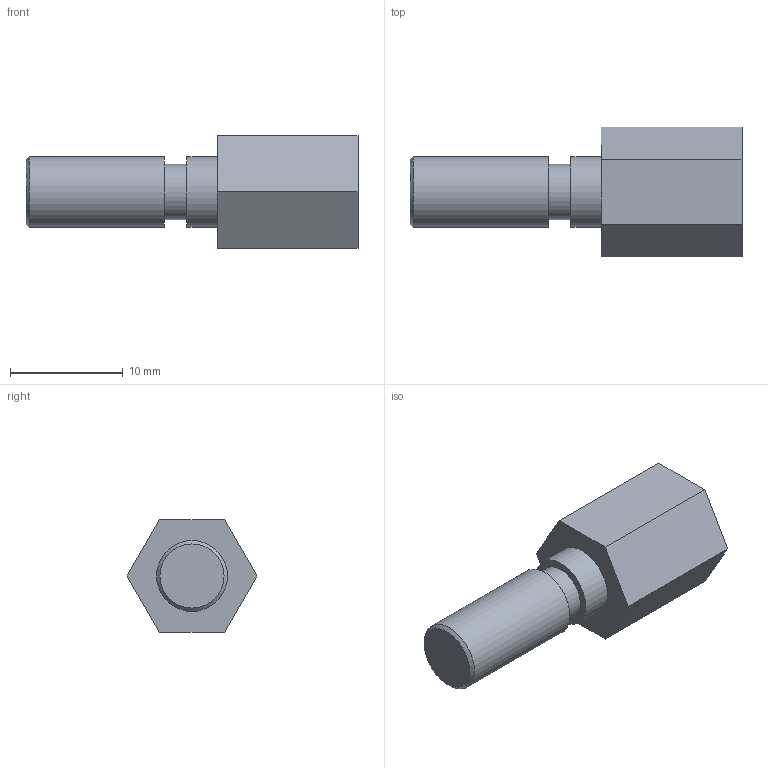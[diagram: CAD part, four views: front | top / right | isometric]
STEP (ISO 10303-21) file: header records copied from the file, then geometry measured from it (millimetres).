
FILE_DESCRIPTION((''),'2;1');
FILE_NAME('\\Sv02\data\客先\あ行\アオイ\99_その他\3D_DATA\CPR_Series\5CPR-SPV-M5c\STEP\203\CPR-SPV-M5c.stp','2008-07-02T09:28:09',('y-shimohigashi'),(''),'Autodesk Inventor 2009','Autodesk Inventor 2009','');
FILE_SCHEMA(('CONFIG_CONTROL_DESIGN'));
Length unit declared in the file: millimetre
Products named in the file (1): CPR-SPV-M5c
Bounding box: 29.5 x 11.55 x 10 mm (x, y, z)
Volume: 1526.6 mm3; surface area: 1013.3 mm2
Topology: 1 solids, 1 shells, 17 faces, 32 edges, 21 vertices
Faces by surface type: plane 11, cylinder 3, bspline 2, cone 1
Full cylindrical faces by diameter (mm): 4.9 x1, 6.3 x2
Entity records: 432 total; most frequent: CARTESIAN_POINT 86, DIRECTION 68, ORIENTED_EDGE 54, EDGE_CURVE 27, EDGE_LOOP 26, AXIS2_PLACEMENT_3D 25, VERTEX_POINT 21, VECTOR 18
